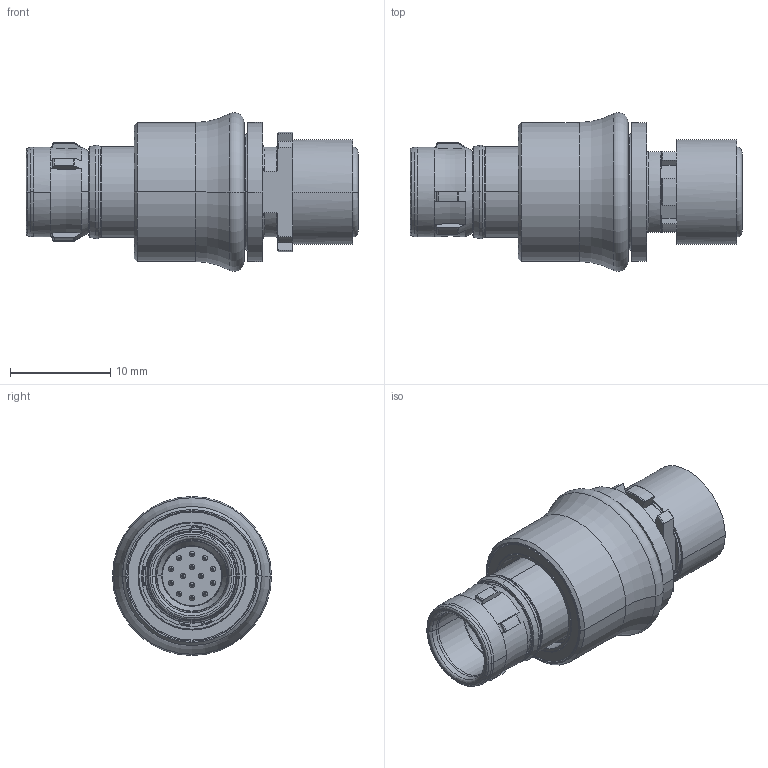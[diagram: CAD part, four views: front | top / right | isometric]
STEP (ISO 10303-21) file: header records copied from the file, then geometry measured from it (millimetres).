
FILE_DESCRIPTION((''),'2;1');
FILE_NAME('00050376--','2020-10-27T12:07:39',('EUnterhaslberger'),(''),'CREO PARAMETRIC BY PTC INC, 2018300','CREO PARAMETRIC BY PTC INC, 2018300','');
FILE_SCHEMA(('AP242_MANAGED_MODEL_BASED_3D_ENGINEERING_MIM_LF { 1 0 10303 442 1 1 4 }'));
Length unit declared in the file: millimetre
Products named in the file (1): 00050376--
Bounding box: 33.2 x 15.9 x 15.9 mm (x, y, z)
Volume: 2427.2 mm3; surface area: 4938.5 mm2
Topology: 1 solids, 1 shells, 801 faces, 2177 edges, 1376 vertices
Faces by surface type: cylinder 282, plane 212, torus 131, cone 120, bspline 28, sphere 28
Entity records: 32942 total; most frequent: CARTESIAN_POINT 6905, DIRECTION 4470, ORIENTED_EDGE 4242, EDGE_CURVE 2121, AXIS2_PLACEMENT_3D 1879, VERTEX_POINT 1376, CIRCLE 1106, EDGE_LOOP 885
